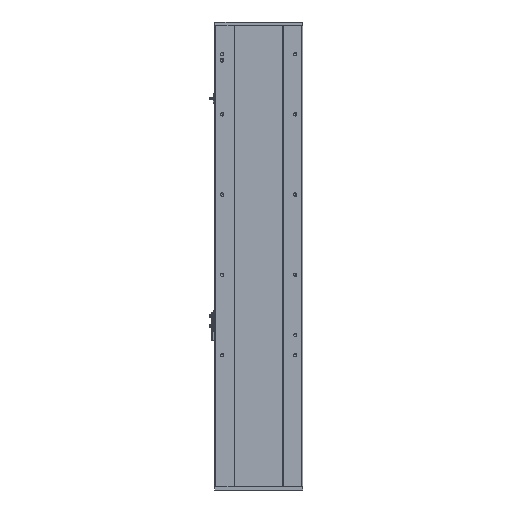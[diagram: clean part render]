
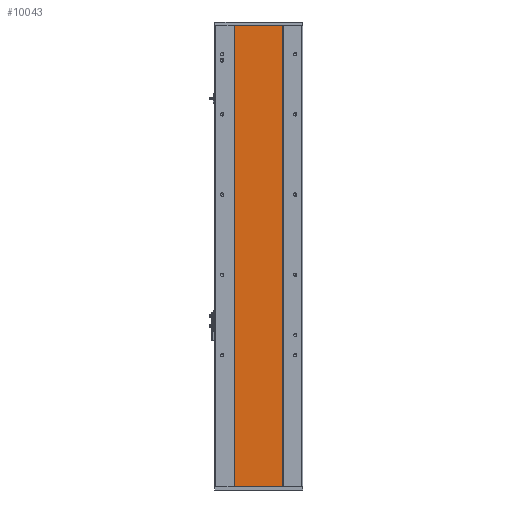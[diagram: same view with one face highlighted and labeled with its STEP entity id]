
A CAD part, front view. The second image highlights one B-rep face of the part: STEP entity #10043.
In plain terms, the highlighted planar face has unit normal (0, -1, 0).
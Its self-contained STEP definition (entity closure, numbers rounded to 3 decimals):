
#681 = PLANE ( 'NONE',  #19444 ) ;
#990 = CARTESIAN_POINT ( 'NONE',  ( 432.408, 155.016, 1150. ) ) ;
#1456 = ORIENTED_EDGE ( 'NONE', *, *, #15563, .F. ) ;
#1799 = DIRECTION ( 'NONE',  ( 0., 1., 0. ) ) ;
#1902 = DIRECTION ( 'NONE',  ( 0., 0., 1. ) ) ;
#2441 = EDGE_CURVE ( 'NONE', #8857, #15977, #8456, .T. ) ;
#3630 = VECTOR ( 'NONE', #5021, 1000. ) ;
#4657 = CARTESIAN_POINT ( 'NONE',  ( 432.408, 155.016, 0. ) ) ;
#5021 = DIRECTION ( 'NONE',  ( 1., 0., 0. ) ) ;
#6314 = VECTOR ( 'NONE', #15342, 1000. ) ;
#8403 = EDGE_LOOP ( 'NONE', ( #18580, #8539, #1456, #14892 ) ) ;
#8456 = LINE ( 'NONE', #14729, #6314 ) ;
#8539 = ORIENTED_EDGE ( 'NONE', *, *, #2441, .F. ) ;
#8803 = VECTOR ( 'NONE', #19319, 1000. ) ;
#8857 = VERTEX_POINT ( 'NONE', #19963 ) ;
#9538 = CARTESIAN_POINT ( 'NONE',  ( 0., 155.016, 0. ) ) ;
#9788 = LINE ( 'NONE', #13001, #8803 ) ;
#9857 = CARTESIAN_POINT ( 'NONE',  ( 0., 155.016, 1150. ) ) ;
#10043 = ADVANCED_FACE ( 'NONE', ( #12855 ), #681, .F. ) ;
#10120 = EDGE_CURVE ( 'NONE', #16318, #19070, #19784, .T. ) ;
#10673 = CARTESIAN_POINT ( 'NONE',  ( 432.408, 155.016, 1150. ) ) ;
#12635 = EDGE_CURVE ( 'NONE', #19070, #15977, #17407, .T. ) ;
#12855 = FACE_OUTER_BOUND ( 'NONE', #8403, .T. ) ;
#13001 = CARTESIAN_POINT ( 'NONE',  ( 0., 155.016, 1150. ) ) ;
#13546 = DIRECTION ( 'NONE',  ( 0., 0., -1. ) ) ;
#14729 = CARTESIAN_POINT ( 'NONE',  ( 551.58, 155.016, 1150. ) ) ;
#14892 = ORIENTED_EDGE ( 'NONE', *, *, #10120, .T. ) ;
#15342 = DIRECTION ( 'NONE',  ( 0., 0., -1. ) ) ;
#15563 = EDGE_CURVE ( 'NONE', #16318, #8857, #9788, .T. ) ;
#15977 = VERTEX_POINT ( 'NONE', #18348 ) ;
#16318 = VERTEX_POINT ( 'NONE', #10673 ) ;
#17407 = LINE ( 'NONE', #9538, #3630 ) ;
#18348 = CARTESIAN_POINT ( 'NONE',  ( 551.58, 155.016, 0. ) ) ;
#18580 = ORIENTED_EDGE ( 'NONE', *, *, #12635, .T. ) ;
#19070 = VERTEX_POINT ( 'NONE', #4657 ) ;
#19101 = VECTOR ( 'NONE', #13546, 1000. ) ;
#19319 = DIRECTION ( 'NONE',  ( 1., 0., 0. ) ) ;
#19444 = AXIS2_PLACEMENT_3D ( 'NONE', #9857, #1799, #1902 ) ;
#19784 = LINE ( 'NONE', #990, #19101 ) ;
#19963 = CARTESIAN_POINT ( 'NONE',  ( 551.58, 155.016, 1150. ) ) ;
